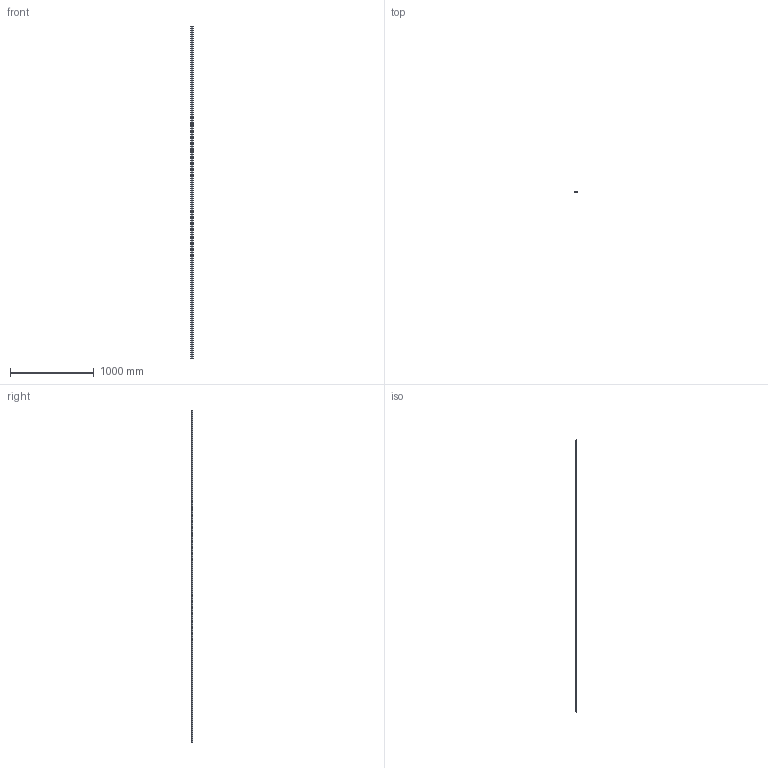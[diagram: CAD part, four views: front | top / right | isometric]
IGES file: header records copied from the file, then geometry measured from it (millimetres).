
Start section: 3D InterOp IGES (v. 2019 1.0.2), Spatial Corp. Copyright (c) 1999-2017.
Global section: file name: SS NS25 3956.igs; native system: Spatial Corp.; preprocessor: 3D InterOp GENERIC/IGES 3.0; author: Noname; organization: Noname; date: 20220628.112209; units: millimetre
Bounding box: 24.61 x 12.26 x 3956 mm (x, y, z)
Surface area: 306645.4 mm2 (no closed solid volume)
Topology: 0 solids, 0 shells, 260 faces, 1284 edges, 1284 vertices
Faces by surface type: revolution 196, extrusion 64
